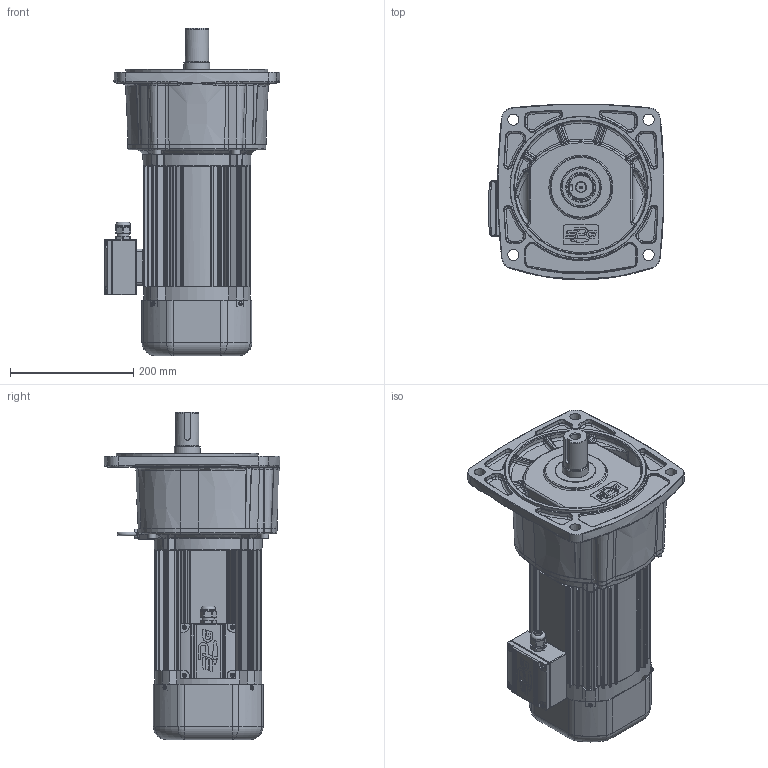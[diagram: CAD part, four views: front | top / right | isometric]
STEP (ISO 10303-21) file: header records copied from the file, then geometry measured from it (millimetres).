
FILE_DESCRIPTION(/* description */ (''),/* implementation_level */ '2;1');
FILE_NAME(/* name */ 'Z:\동력 3D 파일\PAF40_1.5kW_Brake_3D.stp',/* time_stamp */ '2021-11-08T16:04:35+09:00',/* author */ ('jaebok'),/* organization */ (''),/* preprocessor_version */ 'ST-DEVELOPER v18.1',/* originating_system */ 'Autodesk Inventor 2022',/* authorisation */ '');
FILE_SCHEMA (('AUTOMOTIVE_DESIGN { 1 0 10303 214 3 1 1 }'));
Products named in the file (1): 부품22
Bounding box: 285.12 x 284.62 x 530.3 mm (x, y, z)
Volume: 5261675.5 mm3; surface area: 1155633.5 mm2
Topology: 1 solids, 32 shells, 3710 faces, 9233 edges, 5474 vertices
Faces by surface type: bspline 1046, plane 1043, cylinder 904, torus 328, cone 272, sphere 117
Full cylindrical faces by diameter (mm): 2 x1, 3.25 x1, 3.6 x4, 4 x22, 4.917 x4, 5 x13, 6 x5, 6.647 x1, 6.8 x4, 7 x13, 8 x8, 8.8 x4, 10 x1, 12.5 x1, 13 x4, 15 x1, 16 x1, 20 x2, 20.6 x1, 21 x1, 22 x1, 23.6 x1, 25 x1, 28 x1, 36 x1, 38 x1, 39.6 x1, 40 x2, 40.15 x1, 42 x2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
Entity records: 149404 total; most frequent: CARTESIAN_POINT 64618, ORIENTED_EDGE 18022, DIRECTION 15427, EDGE_CURVE 9011, AXIS2_PLACEMENT_3D 6313, VERTEX_POINT 5472, EDGE_LOOP 3935, FACE_OUTER_BOUND 3710
